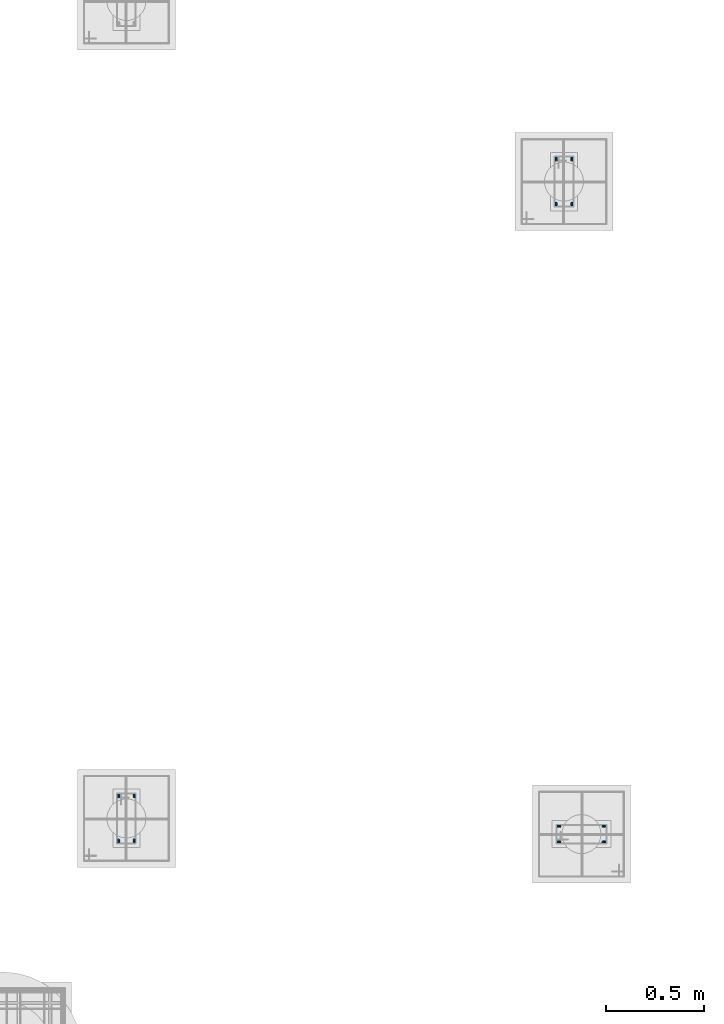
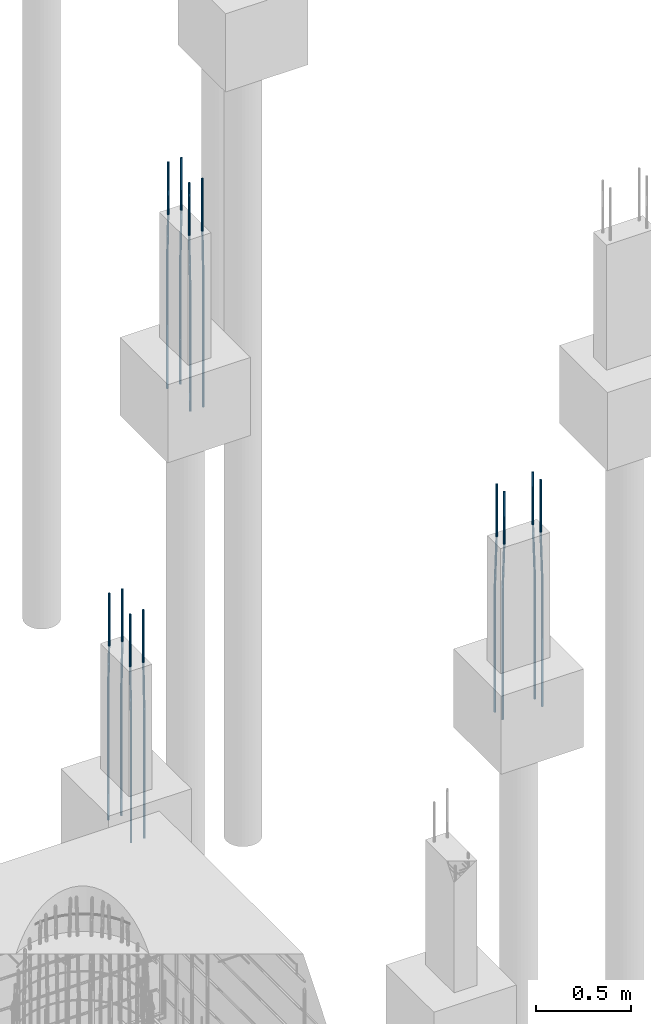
# One storey, part 17 of 119: 12 reinforcing bars.
"""IFC4 building model written with IfcOpenShell, lengths in centimetres."""

from ifc_helpers import new_model, entity, si_unit, derived_unit, frame, origin_with_axes, place, context, project, spatial, element, save


model = new_model("IFC4")

# Units and contexts
model_context = context("Model", 3, precision=1e-05, world=origin_with_axes(), identifier="Body")
ifc_project = project(units=[si_unit("LENGTHUNIT", "METRE", prefix="CENTI"), si_unit("VOLUMEUNIT", "CUBIC_METRE"), si_unit("AREAUNIT", "SQUARE_METRE"), si_unit("POWERUNIT", "WATT"), si_unit("LUMINOUSFLUXUNIT", "LUMEN"), si_unit("ELECTRICCURRENTUNIT", "AMPERE"), si_unit("PRESSUREUNIT", "PASCAL", prefix="KILO"), si_unit("MASSUNIT", "GRAM", prefix="KILO"), si_unit("PLANEANGLEUNIT", "RADIAN"), derived_unit("VOLUMETRICFLOWRATEUNIT", [(si_unit("LENGTHUNIT", "METRE"), 3), (si_unit("TIMEUNIT", "SECOND"), -1)])], contexts=[model_context])

# Site, building, storey
site_placement = place(None, frame((-4000.0, 0.0, 0.0), z_axis=(0.0, 0.0, 1.0), x_axis=(1.0, 0.0, 0.0)))
site = spatial("IfcSite", under=ifc_project, at=site_placement, Name="PADRÃO")
building_placement = place(site_placement, frame((0.0, 0.0, -14.0)))
building = spatial("IfcBuilding", under=site, at=building_placement, Name="CRECHE PRÉ-ESCOLA TIPO 2")
storey_placement = place(building_placement, origin_with_axes())
storey = spatial("IfcBuildingStorey", under=building, at=storey_placement, Name="FUNDAÇÃO", CompositionType="ELEMENT", Elevation=-14.0)

# Reinforcing bars
reinforcing_bar_1_placement = place(storey_placement, frame((2743.52, 760.58, 33.3573001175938), z_axis=(0.0, 0.0, 1.0), x_axis=(1.0, 0.0, 0.0)))
element("IfcReinforcingBar", 1, at=reinforcing_bar_1_placement, inside=storey, Name="P131 - Longitudinal", BarLength=0.0, CrossSectionArea=7.853981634e-05, NominalDiameter=1.0, PredefinedType="MAIN", context=model_context, shape_type="AdvancedSweptSolid", body=[
    entity("IfcSweptDiskSolid", entity("IfcCompositeCurve", [entity("IfcCompositeCurveSegment", "CONTINUOUS", True, entity("IfcPolyline", [entity("IfcCartesianPoint", [0.0, 0.5, -145.357300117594]), entity("IfcCartesianPoint", [0.0, 0.5, -63.3573001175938])])), entity("IfcCompositeCurveSegment", "CONTINUOUS", True, entity("IfcPolyline", [entity("IfcCartesianPoint", [0.0, 0.5, -63.3573001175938]), entity("IfcCartesianPoint", [0.0, -0.5, -33.3573001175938])])), entity("IfcCompositeCurveSegment", "CONTINUOUS", True, entity("IfcPolyline", [entity("IfcCartesianPoint", [0.0, -0.5, -33.3573001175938]), entity("IfcCartesianPoint", [0.0, -0.5, 0.0])]))], False), 0.5),
])
for number, where, z_axis, x_axis, name in (
    (2, (2751.52, 737.58, 33.3573001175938), (0.0, 0.0, 1.0), (1.0, 0.0, 0.0), "P131 - Longitudinal"),
    (3, (2743.52, 737.58, 33.3573001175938), (0.0, 0.0, 1.0), (1.0, 0.0, 0.0), "P131 - Longitudinal"),
):
    element("IfcReinforcingBar", number, at=place(storey_placement, frame(where, z_axis=z_axis, x_axis=x_axis)), inside=storey, Name=name, BarLength=0.0, CrossSectionArea=7.853981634e-05, NominalDiameter=1.0, PredefinedType="MAIN", context=model_context, shape_type="AdvancedSweptSolid", body=[
        entity("IfcSweptDiskSolid", entity("IfcCompositeCurve", [entity("IfcCompositeCurveSegment", "CONTINUOUS", True, entity("IfcPolyline", [entity("IfcCartesianPoint", [0.0, -0.5, -145.357300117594]), entity("IfcCartesianPoint", [0.0, -0.5, -63.3573001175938])])), entity("IfcCompositeCurveSegment", "CONTINUOUS", True, entity("IfcPolyline", [entity("IfcCartesianPoint", [0.0, -0.5, -63.3573001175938]), entity("IfcCartesianPoint", [0.0, 0.5, -33.3573001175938])])), entity("IfcCompositeCurveSegment", "CONTINUOUS", True, entity("IfcPolyline", [entity("IfcCartesianPoint", [0.0, 0.5, -33.3573001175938]), entity("IfcCartesianPoint", [0.0, 0.5, 0.0])]))], False), 0.5),
    ])
reinforcing_bar_2_placement = place(storey_placement, frame((2751.52, 760.58, 33.3573001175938), z_axis=(0.0, 0.0, 1.0), x_axis=(1.0, 0.0, 0.0)))
element("IfcReinforcingBar", 4, at=reinforcing_bar_2_placement, inside=storey, Name="P131 - Longitudinal", BarLength=0.0, CrossSectionArea=7.853981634e-05, NominalDiameter=1.0, PredefinedType="MAIN", context=model_context, shape_type="AdvancedSweptSolid", body=[
    entity("IfcSweptDiskSolid", entity("IfcCompositeCurve", [entity("IfcCompositeCurveSegment", "CONTINUOUS", True, entity("IfcPolyline", [entity("IfcCartesianPoint", [0.0, 0.5, -145.357300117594]), entity("IfcCartesianPoint", [0.0, 0.5, -63.3573001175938])])), entity("IfcCompositeCurveSegment", "CONTINUOUS", True, entity("IfcPolyline", [entity("IfcCartesianPoint", [0.0, 0.5, -63.3573001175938]), entity("IfcCartesianPoint", [0.0, -0.5, -33.3573001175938])])), entity("IfcCompositeCurveSegment", "CONTINUOUS", True, entity("IfcPolyline", [entity("IfcCartesianPoint", [0.0, -0.5, -33.3573001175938]), entity("IfcCartesianPoint", [0.0, -0.5, 0.0])]))], False), 0.5),
])
reinforcing_bar_3_placement = place(storey_placement, frame((2527.5, 411.52, 33.3573001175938), z_axis=(0.0, 0.0, 1.0), x_axis=(1.0, 0.0, 0.0)))
element("IfcReinforcingBar", 5, at=reinforcing_bar_3_placement, inside=storey, Name="P146 - Longitudinal", BarLength=0.0, CrossSectionArea=7.853981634e-05, NominalDiameter=1.0, PredefinedType="MAIN", context=model_context, shape_type="AdvancedSweptSolid", body=[
    entity("IfcSweptDiskSolid", entity("IfcCompositeCurve", [entity("IfcCompositeCurveSegment", "CONTINUOUS", True, entity("IfcPolyline", [entity("IfcCartesianPoint", [0.0, -0.5, -145.357300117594]), entity("IfcCartesianPoint", [0.0, -0.5, -63.3573001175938])])), entity("IfcCompositeCurveSegment", "CONTINUOUS", True, entity("IfcPolyline", [entity("IfcCartesianPoint", [0.0, -0.5, -63.3573001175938]), entity("IfcCartesianPoint", [0.0, 0.5, -33.3573001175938])])), entity("IfcCompositeCurveSegment", "CONTINUOUS", True, entity("IfcPolyline", [entity("IfcCartesianPoint", [0.0, 0.5, -33.3573001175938]), entity("IfcCartesianPoint", [0.0, 0.5, 0.0])]))], False), 0.5),
])
reinforcing_bar_4_placement = place(storey_placement, frame((2527.5, 434.52, 33.3573001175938), z_axis=(0.0, 0.0, 1.0), x_axis=(1.0, 0.0, 0.0)))
element("IfcReinforcingBar", 6, at=reinforcing_bar_4_placement, inside=storey, Name="P146 - Longitudinal", BarLength=0.0, CrossSectionArea=7.853981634e-05, NominalDiameter=1.0, PredefinedType="MAIN", context=model_context, shape_type="AdvancedSweptSolid", body=[
    entity("IfcSweptDiskSolid", entity("IfcCompositeCurve", [entity("IfcCompositeCurveSegment", "CONTINUOUS", True, entity("IfcPolyline", [entity("IfcCartesianPoint", [0.0, 0.5, -145.357300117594]), entity("IfcCartesianPoint", [0.0, 0.5, -63.3573001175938])])), entity("IfcCompositeCurveSegment", "CONTINUOUS", True, entity("IfcPolyline", [entity("IfcCartesianPoint", [0.0, 0.5, -63.3573001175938]), entity("IfcCartesianPoint", [0.0, -0.5, -33.3573001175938])])), entity("IfcCompositeCurveSegment", "CONTINUOUS", True, entity("IfcPolyline", [entity("IfcCartesianPoint", [0.0, -0.5, -33.3573001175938]), entity("IfcCartesianPoint", [0.0, -0.5, 0.0])]))], False), 0.5),
])
reinforcing_bar_5_placement = place(storey_placement, frame((2519.5, 411.52, 33.3573001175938), z_axis=(0.0, 0.0, 1.0), x_axis=(1.0, 0.0, 0.0)))
element("IfcReinforcingBar", 7, at=reinforcing_bar_5_placement, inside=storey, Name="P146 - Longitudinal", BarLength=0.0, CrossSectionArea=7.853981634e-05, NominalDiameter=1.0, PredefinedType="MAIN", context=model_context, shape_type="AdvancedSweptSolid", body=[
    entity("IfcSweptDiskSolid", entity("IfcCompositeCurve", [entity("IfcCompositeCurveSegment", "CONTINUOUS", True, entity("IfcPolyline", [entity("IfcCartesianPoint", [0.0, -0.5, -145.357300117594]), entity("IfcCartesianPoint", [0.0, -0.5, -63.3573001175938])])), entity("IfcCompositeCurveSegment", "CONTINUOUS", True, entity("IfcPolyline", [entity("IfcCartesianPoint", [0.0, -0.5, -63.3573001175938]), entity("IfcCartesianPoint", [0.0, 0.5, -33.3573001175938])])), entity("IfcCompositeCurveSegment", "CONTINUOUS", True, entity("IfcPolyline", [entity("IfcCartesianPoint", [0.0, 0.5, -33.3573001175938]), entity("IfcCartesianPoint", [0.0, 0.5, 0.0])]))], False), 0.5),
])
reinforcing_bar_6_placement = place(storey_placement, frame((2519.5, 434.52, 33.3573001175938), z_axis=(0.0, 0.0, 1.0), x_axis=(1.0, 0.0, 0.0)))
element("IfcReinforcingBar", 8, at=reinforcing_bar_6_placement, inside=storey, Name="P146 - Longitudinal", BarLength=0.0, CrossSectionArea=7.853981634e-05, NominalDiameter=1.0, PredefinedType="MAIN", context=model_context, shape_type="AdvancedSweptSolid", body=[
    entity("IfcSweptDiskSolid", entity("IfcCompositeCurve", [entity("IfcCompositeCurveSegment", "CONTINUOUS", True, entity("IfcPolyline", [entity("IfcCartesianPoint", [0.0, 0.5, -145.357300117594]), entity("IfcCartesianPoint", [0.0, 0.5, -63.3573001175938])])), entity("IfcCompositeCurveSegment", "CONTINUOUS", True, entity("IfcPolyline", [entity("IfcCartesianPoint", [0.0, 0.5, -63.3573001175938]), entity("IfcCartesianPoint", [0.0, -0.5, -33.3573001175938])])), entity("IfcCompositeCurveSegment", "CONTINUOUS", True, entity("IfcPolyline", [entity("IfcCartesianPoint", [0.0, -0.5, -33.3573001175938]), entity("IfcCartesianPoint", [0.0, -0.5, 0.0])]))], False), 0.5),
])
for number, where, z_axis, x_axis, name in (
    (9, (2767.96, 419.01, 33.3573001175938), (0.0, 0.0, 1.0), (1.0, 0.0, 0.0), "P147 - Longitudinal"),
    (10, (2767.96, 411.01, 33.3573001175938), (0.0, 0.0, 1.0), (1.0, 0.0, 0.0), "P147 - Longitudinal"),
):
    element("IfcReinforcingBar", number, at=place(storey_placement, frame(where, z_axis=z_axis, x_axis=x_axis)), inside=storey, Name=name, BarLength=0.0, CrossSectionArea=7.853981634e-05, NominalDiameter=1.0, PredefinedType="MAIN", context=model_context, shape_type="AdvancedSweptSolid", body=[
        entity("IfcSweptDiskSolid", entity("IfcCompositeCurve", [entity("IfcCompositeCurveSegment", "CONTINUOUS", True, entity("IfcPolyline", [entity("IfcCartesianPoint", [0.5, 0.0, -145.357300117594]), entity("IfcCartesianPoint", [0.5, 0.0, -63.3573001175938])])), entity("IfcCompositeCurveSegment", "CONTINUOUS", True, entity("IfcPolyline", [entity("IfcCartesianPoint", [0.5, 0.0, -63.3573001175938]), entity("IfcCartesianPoint", [-0.5, 0.0, -33.3573001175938])])), entity("IfcCompositeCurveSegment", "CONTINUOUS", True, entity("IfcPolyline", [entity("IfcCartesianPoint", [-0.5, 0.0, -33.3573001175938]), entity("IfcCartesianPoint", [-0.5, 0.0, 0.0])]))], False), 0.5),
    ])
for number, where, z_axis, x_axis, name in (
    (11, (2744.96, 411.01, 33.3573001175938), (0.0, 0.0, 1.0), (1.0, 0.0, 0.0), "P147 - Longitudinal"),
    (12, (2744.96, 419.01, 33.3573001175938), (0.0, 0.0, 1.0), (1.0, 0.0, 0.0), "P147 - Longitudinal"),
):
    element("IfcReinforcingBar", number, at=place(storey_placement, frame(where, z_axis=z_axis, x_axis=x_axis)), inside=storey, Name=name, BarLength=0.0, CrossSectionArea=7.853981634e-05, NominalDiameter=1.0, PredefinedType="MAIN", context=model_context, shape_type="AdvancedSweptSolid", body=[
        entity("IfcSweptDiskSolid", entity("IfcCompositeCurve", [entity("IfcCompositeCurveSegment", "CONTINUOUS", True, entity("IfcPolyline", [entity("IfcCartesianPoint", [-0.5, 0.0, -145.357300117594]), entity("IfcCartesianPoint", [-0.5, 0.0, -63.3573001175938])])), entity("IfcCompositeCurveSegment", "CONTINUOUS", True, entity("IfcPolyline", [entity("IfcCartesianPoint", [-0.5, 0.0, -63.3573001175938]), entity("IfcCartesianPoint", [0.5, 0.0, -33.3573001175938])])), entity("IfcCompositeCurveSegment", "CONTINUOUS", True, entity("IfcPolyline", [entity("IfcCartesianPoint", [0.5, 0.0, -33.3573001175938]), entity("IfcCartesianPoint", [0.5, 0.0, 0.0])]))], False), 0.5),
    ])

save(model, "model.ifc")
